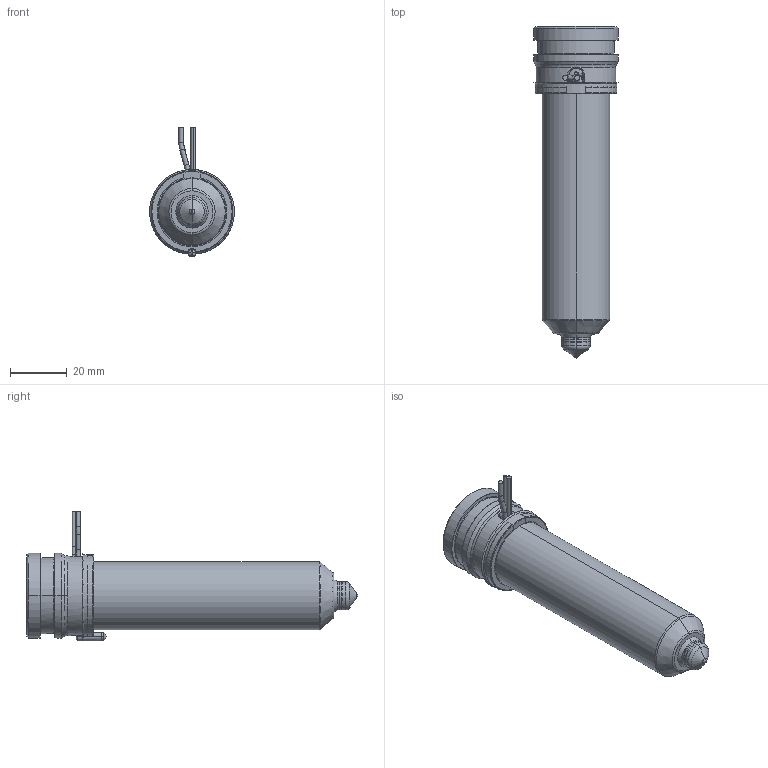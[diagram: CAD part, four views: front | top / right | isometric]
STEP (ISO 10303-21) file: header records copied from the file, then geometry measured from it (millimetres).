
FILE_DESCRIPTION((''),'2;1');
FILE_NAME('MPN-10-29-TX10-096-A','2026-02-11T11:17:08',('UVRWS'),('Thermoplay S.p.A.'),'CREO PARAMETRIC BY PTC INC, 2023494','CREO PARAMETRIC BY PTC INC, 2023494','');
FILE_SCHEMA(('CONFIG_CONTROL_DESIGN','SHAPE_APPEARANCE_LAYERS_GROUPS'));
Length unit declared in the file: millimetre
Products named in the file (1): MPN-10-29-TX10-096-A
Bounding box: 30 x 117.5 x 46 mm (x, y, z)
Volume: 37034 mm3; surface area: 36850.6 mm2
Topology: 2 solids, 3 shells, 551 faces, 1455 edges, 899 vertices
Faces by surface type: cylinder 180, plane 143, bspline 79, torus 68, cone 66, sphere 11, extrusion 4
Entity records: 28923 total; most frequent: CARTESIAN_POINT 12567, ORIENTED_EDGE 2894, DIRECTION 2641, EDGE_CURVE 1447, AXIS2_PLACEMENT_3D 1045, VERTEX_POINT 899, EDGE_LOOP 580, CIRCLE 576
